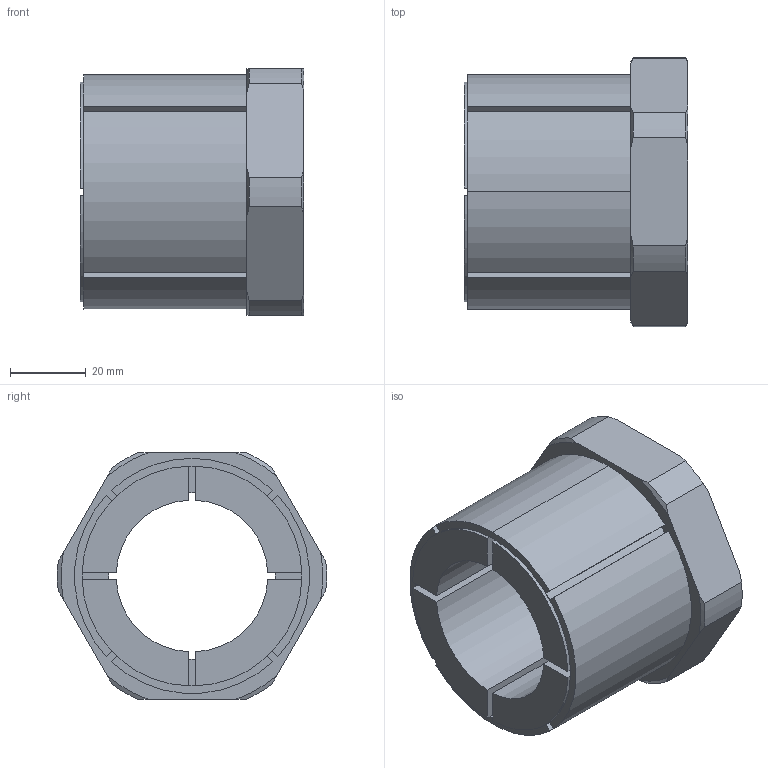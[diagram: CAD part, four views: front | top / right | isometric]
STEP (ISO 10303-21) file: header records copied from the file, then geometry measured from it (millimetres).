
FILE_DESCRIPTION (( 'STEP AP203' ), '1' );
FILE_NAME ('KBS 58 - 40 x 62.STEP', '2015-07-05T20:00:18', ( '' ), ( '' ), 'SwSTEP 2.0', 'SolidWorks 2010', '' );
FILE_SCHEMA (( 'CONFIG_CONTROL_DESIGN' ));
Length unit declared in the file: millimetre
Products named in the file (1): KBS 58 - 40 x 62
Bounding box: 59 x 70.95 x 65 mm (x, y, z)
Volume: 107356 mm3; surface area: 28743.4 mm2
Topology: 1 solids, 1 shells, 79 faces, 220 edges, 144 vertices
Faces by surface type: plane 37, cylinder 26, cone 16
Entity records: 2687 total; most frequent: CARTESIAN_POINT 564, ORIENTED_EDGE 440, DIRECTION 428, EDGE_CURVE 220, AXIS2_PLACEMENT_3D 160, VERTEX_POINT 144, LINE 108, VECTOR 108
